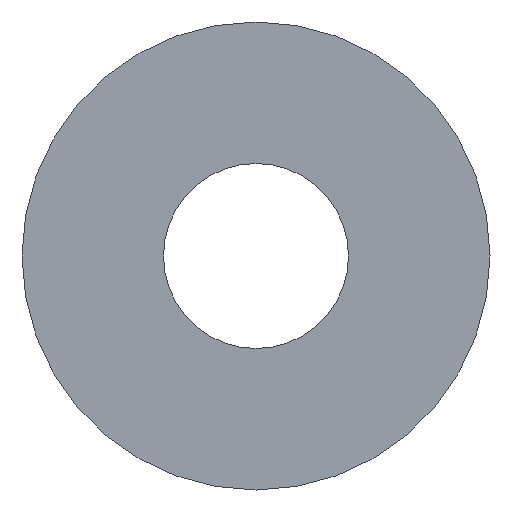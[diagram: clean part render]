
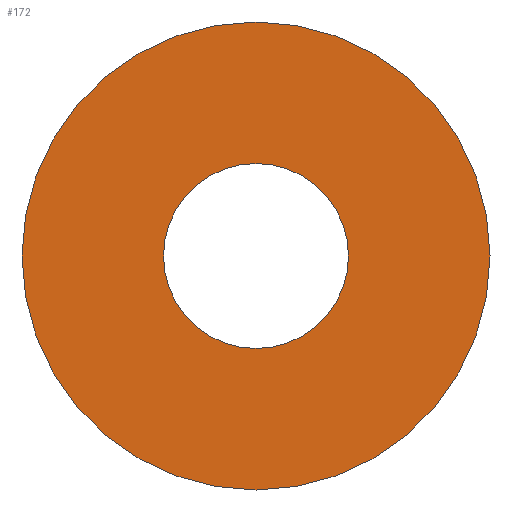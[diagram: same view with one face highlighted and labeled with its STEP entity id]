
A CAD part, front view. The second image highlights one B-rep face of the part: STEP entity #172.
In plain terms, the highlighted planar face has unit normal (0, -1, 0).
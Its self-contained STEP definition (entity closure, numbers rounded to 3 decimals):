
#17 = CARTESIAN_POINT ( 'NONE',  ( 0., 0., 339. ) ) ;
#18 = DIRECTION ( 'NONE',  ( 0., 0., 1. ) ) ;
#19 = CIRCLE ( 'NONE', #227, 134. ) ;
#21 = CARTESIAN_POINT ( 'NONE',  ( 0., 0., 0. ) ) ;
#22 = FACE_OUTER_BOUND ( 'NONE', #106, .T. ) ;
#24 = CIRCLE ( 'NONE', #194, 134. ) ;
#36 = CARTESIAN_POINT ( 'NONE',  ( 0., 0., -134. ) ) ;
#39 = CARTESIAN_POINT ( 'NONE',  ( 0., 0., 0. ) ) ;
#41 = DIRECTION ( 'NONE',  ( 0., 1., 0. ) ) ;
#53 = AXIS2_PLACEMENT_3D ( 'NONE', #21, #246, #18 ) ;
#56 = ORIENTED_EDGE ( 'NONE', *, *, #142, .F. ) ;
#59 = DIRECTION ( 'NONE',  ( 0., 0., 1. ) ) ;
#68 = VERTEX_POINT ( 'NONE', #36 ) ;
#76 = CARTESIAN_POINT ( 'NONE',  ( 0., 0., 134. ) ) ;
#91 = ORIENTED_EDGE ( 'NONE', *, *, #185, .F. ) ;
#97 = DIRECTION ( 'NONE',  ( 0., 0., 1. ) ) ;
#106 = EDGE_LOOP ( 'NONE', ( #91, #56 ) ) ;
#108 = CIRCLE ( 'NONE', #53, 339. ) ;
#127 = CIRCLE ( 'NONE', #152, 339. ) ;
#130 = VERTEX_POINT ( 'NONE', #180 ) ;
#131 = ORIENTED_EDGE ( 'NONE', *, *, #139, .T. ) ;
#133 = FACE_BOUND ( 'NONE', #202, .T. ) ;
#134 = DIRECTION ( 'NONE',  ( 0., 1., 0. ) ) ;
#139 = EDGE_CURVE ( 'NONE', #68, #150, #19, .T. ) ;
#142 = EDGE_CURVE ( 'NONE', #166, #130, #108, .T. ) ;
#150 = VERTEX_POINT ( 'NONE', #76 ) ;
#152 = AXIS2_PLACEMENT_3D ( 'NONE', #248, #232, #97 ) ;
#154 = CARTESIAN_POINT ( 'NONE',  ( 0., 0., 0. ) ) ;
#155 = DIRECTION ( 'NONE',  ( 0., 0., 1. ) ) ;
#156 = PLANE ( 'NONE',  #235 ) ;
#166 = VERTEX_POINT ( 'NONE', #17 ) ;
#170 = DIRECTION ( 'NONE',  ( 0., 0., 1. ) ) ;
#172 = ADVANCED_FACE ( 'NONE', ( #22, #133 ), #156, .F. ) ;
#180 = CARTESIAN_POINT ( 'NONE',  ( 0., 0., -339. ) ) ;
#185 = EDGE_CURVE ( 'NONE', #130, #166, #127, .T. ) ;
#189 = EDGE_CURVE ( 'NONE', #150, #68, #24, .T. ) ;
#191 = DIRECTION ( 'NONE',  ( 0., 1., 0. ) ) ;
#194 = AXIS2_PLACEMENT_3D ( 'NONE', #39, #191, #59 ) ;
#202 = EDGE_LOOP ( 'NONE', ( #131, #220 ) ) ;
#209 = CARTESIAN_POINT ( 'NONE',  ( 0., 0., 0. ) ) ;
#220 = ORIENTED_EDGE ( 'NONE', *, *, #189, .T. ) ;
#227 = AXIS2_PLACEMENT_3D ( 'NONE', #209, #41, #155 ) ;
#232 = DIRECTION ( 'NONE',  ( 0., 1., 0. ) ) ;
#235 = AXIS2_PLACEMENT_3D ( 'NONE', #154, #134, #170 ) ;
#246 = DIRECTION ( 'NONE',  ( 0., 1., 0. ) ) ;
#248 = CARTESIAN_POINT ( 'NONE',  ( 0., 0., 0. ) ) ;
